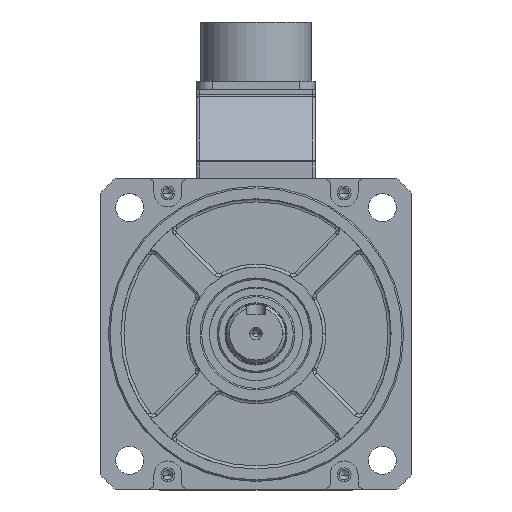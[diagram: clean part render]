
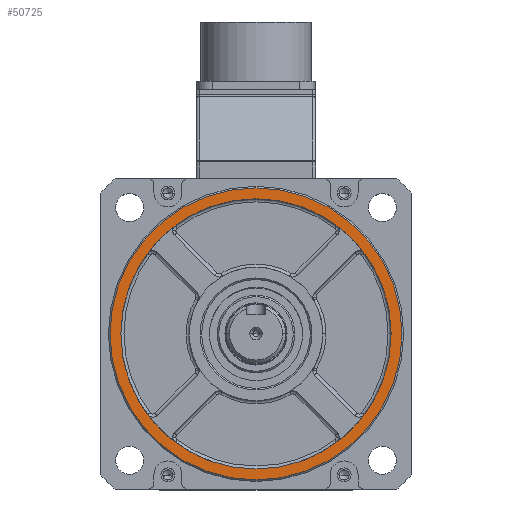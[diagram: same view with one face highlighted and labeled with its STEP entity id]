
A CAD part, top view. The second image highlights one B-rep face of the part: STEP entity #50725.
In plain terms, the highlighted planar face has unit normal (0, 0, 1).
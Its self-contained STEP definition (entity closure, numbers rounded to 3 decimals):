
#223 = DIRECTION ( 'NONE',  ( 1., 0., 0. ) ) ;
#2020 = CARTESIAN_POINT ( 'NONE',  ( 43.5, 0., 13. ) ) ;
#2404 = ORIENTED_EDGE ( 'NONE', *, *, #4646, .F. ) ;
#2423 = CARTESIAN_POINT ( 'NONE',  ( 0., 0., 13. ) ) ;
#2785 = CARTESIAN_POINT ( 'NONE',  ( -43.5, 0., 13. ) ) ;
#3413 = DIRECTION ( 'NONE',  ( 1., 0., 0. ) ) ;
#4476 = DIRECTION ( 'NONE',  ( 1., 0., 0. ) ) ;
#4646 = EDGE_CURVE ( 'NONE', #46100, #20579, #42115, .T. ) ;
#11750 = CARTESIAN_POINT ( 'NONE',  ( 0., 0., 13. ) ) ;
#13587 = DIRECTION ( 'NONE',  ( 0., 0., 1. ) ) ;
#14642 = AXIS2_PLACEMENT_3D ( 'NONE', #49900, #44572, #4476 ) ;
#15032 = FACE_OUTER_BOUND ( 'NONE', #23745, .T. ) ;
#20210 = VERTEX_POINT ( 'NONE', #47995 ) ;
#20527 = DIRECTION ( 'NONE',  ( 0., 0., 1. ) ) ;
#20579 = VERTEX_POINT ( 'NONE', #2785 ) ;
#21639 = CIRCLE ( 'NONE', #38705, 47. ) ;
#22026 = EDGE_LOOP ( 'NONE', ( #2404, #47704 ) ) ;
#22372 = DIRECTION ( 'NONE',  ( 0., 0., 1. ) ) ;
#23661 = CARTESIAN_POINT ( 'NONE',  ( 0., 0., 13. ) ) ;
#23745 = EDGE_LOOP ( 'NONE', ( #46722, #27550 ) ) ;
#25357 = CARTESIAN_POINT ( 'NONE',  ( 47., 0., 13. ) ) ;
#26163 = AXIS2_PLACEMENT_3D ( 'NONE', #11750, #38457, #3413 ) ;
#27550 = ORIENTED_EDGE ( 'NONE', *, *, #53350, .T. ) ;
#29175 = AXIS2_PLACEMENT_3D ( 'NONE', #44963, #22372, #40488 ) ;
#29186 = EDGE_CURVE ( 'NONE', #20579, #46100, #57536, .T. ) ;
#33428 = VERTEX_POINT ( 'NONE', #25357 ) ;
#34181 = DIRECTION ( 'NONE',  ( 1., 0., 0. ) ) ;
#38457 = DIRECTION ( 'NONE',  ( 0., 0., 1. ) ) ;
#38705 = AXIS2_PLACEMENT_3D ( 'NONE', #23661, #13587, #223 ) ;
#40488 = DIRECTION ( 'NONE',  ( 1., 0., 0. ) ) ;
#42115 = CIRCLE ( 'NONE', #14642, 43.5 ) ;
#44100 = PLANE ( 'NONE',  #26163 ) ;
#44326 = EDGE_CURVE ( 'NONE', #20210, #33428, #21639, .T. ) ;
#44572 = DIRECTION ( 'NONE',  ( 0., 0., 1. ) ) ;
#44963 = CARTESIAN_POINT ( 'NONE',  ( 0., 0., 13. ) ) ;
#46100 = VERTEX_POINT ( 'NONE', #2020 ) ;
#46722 = ORIENTED_EDGE ( 'NONE', *, *, #44326, .T. ) ;
#47704 = ORIENTED_EDGE ( 'NONE', *, *, #29186, .F. ) ;
#47965 = FACE_BOUND ( 'NONE', #22026, .T. ) ;
#47995 = CARTESIAN_POINT ( 'NONE',  ( -47., 0., 13. ) ) ;
#49098 = CIRCLE ( 'NONE', #29175, 47. ) ;
#49900 = CARTESIAN_POINT ( 'NONE',  ( 0., 0., 13. ) ) ;
#50725 = ADVANCED_FACE ( 'NONE', ( #15032, #47965 ), #44100, .T. ) ;
#53350 = EDGE_CURVE ( 'NONE', #33428, #20210, #49098, .T. ) ;
#54671 = AXIS2_PLACEMENT_3D ( 'NONE', #2423, #20527, #34181 ) ;
#57536 = CIRCLE ( 'NONE', #54671, 43.5 ) ;
